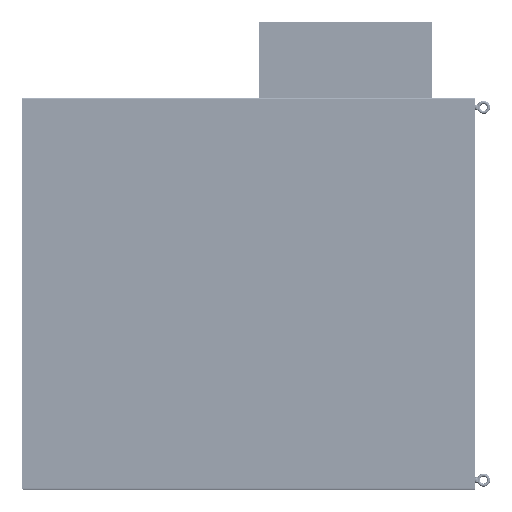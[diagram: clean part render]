
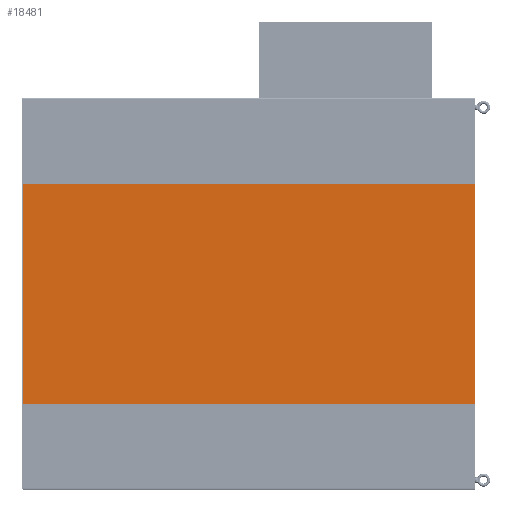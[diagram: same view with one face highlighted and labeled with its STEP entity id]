
A CAD part, left-side view. The second image highlights one B-rep face of the part: STEP entity #18481.
In plain terms, the highlighted planar face has unit normal (-1, 0, 0) as drawn and (0, 0, -1) by its records, which use the part's own axes.
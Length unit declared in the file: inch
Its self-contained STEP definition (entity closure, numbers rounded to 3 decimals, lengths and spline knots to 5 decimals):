
#18238=CARTESIAN_POINT('',(21.84375,-89.76075,-0.104));
#18239=DIRECTION('',(0.,0.,-1.));
#18240=DIRECTION('',(1.,0.,0.));
#18241=AXIS2_PLACEMENT_3D('',#18238,#18239,#18240);
#18246=DIRECTION('',(0.,1.,0.));
#18247=VECTOR('',#18246,89.7295);
#18248=CARTESIAN_POINT('',(21.875,-89.76075,-0.104));
#18249=LINE('',#18248,#18247);
#18253=CARTESIAN_POINT('',(21.84375,-0.03125,-0.104));
#18254=DIRECTION('',(0.,0.,-1.));
#18255=DIRECTION('',(0.,1.,0.));
#18256=AXIS2_PLACEMENT_3D('',#18253,#18254,#18255);
#18261=DIRECTION('',(-1.,0.,0.));
#18262=VECTOR('',#18261,43.6875);
#18263=CARTESIAN_POINT('',(21.84375,0.,-0.104));
#18264=LINE('',#18263,#18262);
#18268=CARTESIAN_POINT('',(-21.84375,-0.03125,-0.104));
#18269=DIRECTION('',(0.,0.,-1.));
#18270=DIRECTION('',(-1.,0.,0.));
#18271=AXIS2_PLACEMENT_3D('',#18268,#18269,#18270);
#18276=DIRECTION('',(0.,-1.,0.));
#18277=VECTOR('',#18276,89.7295);
#18278=CARTESIAN_POINT('',(-21.875,-0.03125,-0.104));
#18279=LINE('',#18278,#18277);
#18283=CARTESIAN_POINT('',(-21.84375,-89.76075,-0.104));
#18284=DIRECTION('',(0.,0.,-1.));
#18285=DIRECTION('',(0.,-1.,0.));
#18286=AXIS2_PLACEMENT_3D('',#18283,#18284,#18285);
#18291=DIRECTION('',(1.,0.,0.));
#18292=VECTOR('',#18291,43.6875);
#18293=CARTESIAN_POINT('',(-21.84375,-89.792,-0.104));
#18294=LINE('',#18293,#18292);
#18302=CARTESIAN_POINT('',(21.875,-89.76075,-0.104));
#18303=VERTEX_POINT('',#18302);
#18304=CARTESIAN_POINT('',(21.84375,-89.792,-0.104));
#18305=VERTEX_POINT('',#18304);
#18310=CARTESIAN_POINT('',(21.84375,0.,-0.104));
#18311=VERTEX_POINT('',#18310);
#18312=CARTESIAN_POINT('',(21.875,-0.03125,-0.104));
#18313=VERTEX_POINT('',#18312);
#18318=CARTESIAN_POINT('',(-21.84375,-89.792,-0.104));
#18319=VERTEX_POINT('',#18318);
#18320=CARTESIAN_POINT('',(-21.84375,0.,-0.104));
#18321=VERTEX_POINT('',#18320);
#18324=CARTESIAN_POINT('',(-21.875,-89.76075,-0.104));
#18325=VERTEX_POINT('',#18324);
#18328=CARTESIAN_POINT('',(-21.875,-0.03125,-0.104));
#18329=VERTEX_POINT('',#18328);
#18466=CARTESIAN_POINT('',(0.,0.,-0.104));
#18467=DIRECTION('',(0.,0.,1.));
#18468=DIRECTION('',(1.,0.,0.));
#18469=AXIS2_PLACEMENT_3D('',#18466,#18467,#18468);
#18470=PLANE('',#18469);
#18471=ORIENTED_EDGE('',*,*,#18362,.F.);
#18472=ORIENTED_EDGE('',*,*,#18378,.T.);
#18473=ORIENTED_EDGE('',*,*,#18391,.F.);
#18474=ORIENTED_EDGE('',*,*,#18406,.T.);
#18475=ORIENTED_EDGE('',*,*,#18419,.F.);
#18476=ORIENTED_EDGE('',*,*,#18432,.T.);
#18477=ORIENTED_EDGE('',*,*,#18447,.F.);
#18478=ORIENTED_EDGE('',*,*,#18459,.T.);
#18479=EDGE_LOOP('',(#18471,#18472,#18473,#18474,#18475,#18476,#18477,#18478));
#18480=FACE_OUTER_BOUND('',#18479,.F.);
#18242=CIRCLE('',#18241,0.03125);
#18257=CIRCLE('',#18256,0.03125);
#18272=CIRCLE('',#18271,0.03125);
#18287=CIRCLE('',#18286,0.03125);
#18362=EDGE_CURVE('',#18303,#18305,#18242,.T.);
#18378=EDGE_CURVE('',#18303,#18313,#18249,.T.);
#18391=EDGE_CURVE('',#18311,#18313,#18257,.T.);
#18406=EDGE_CURVE('',#18311,#18321,#18264,.T.);
#18419=EDGE_CURVE('',#18329,#18321,#18272,.T.);
#18432=EDGE_CURVE('',#18329,#18325,#18279,.T.);
#18447=EDGE_CURVE('',#18319,#18325,#18287,.T.);
#18459=EDGE_CURVE('',#18319,#18305,#18294,.T.);
#18481=ADVANCED_FACE('',(#18480),#18470,.F.);
